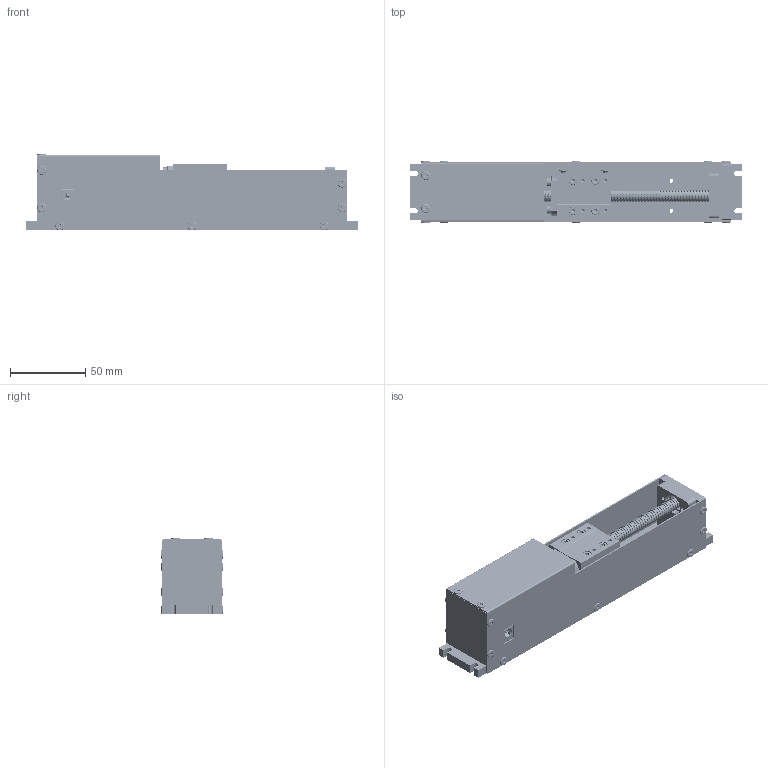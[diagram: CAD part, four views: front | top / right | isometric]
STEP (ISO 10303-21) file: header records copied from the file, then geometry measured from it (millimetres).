
FILE_DESCRIPTION (( 'STEP AP203' ), '1' );
FILE_NAME ('60 mm linear stage.STEP', '2025-09-11T20:34:11', ( 'cad' ), ( '' ), 'SwSTEP 2.0', 'SolidWorks 2017', '' );
FILE_SCHEMA (( 'CONFIG_CONTROL_DESIGN' ));
Length unit declared in the file: millimetre
Products named in the file (34): 蚾饜极23^SWHL60G02-28GC5-10  (A1-24.4.30); ﾊｮﾗﾖｲﾛﾐ｡ﾅﾌﾍｷﾂﾝｶ､-GBT823_M2.5X25; 錨璃33^60 mm linear stage; 6941xx301002_PinBis.step; SWHL60G02-28GC5-10  (A1-24.4.30); 28HS3406-123G0802D5-320-C5; 1002542_side plate rear; 694106301002.step; 10103594 v2.step; 内六角圆柱头螺钉-GBT70.1_M3X10^装配体23_SWHL60G02-28GC5-10  (A1-24.4.30); 錨璃63^60 mm linear stage; Packages.step; 10103594.step; 滚珠丝杆电机配套螺母(8X2)^装配体23_SWHL60G02-28GC5-10  (A1-24.4.30); 錨璃64^60 mm linear stage; MSSD Ver 2.0 v5_1; 6941xx301002.step; 内六角圆柱头螺钉-GBT70.1_M3X8^装配体23_SWHL60G02-28GC5-10  (A1-24.4.30); 1002541_top cover; 1002366_bottom cover; 694106301002_PinContact.step; 蟀諉輸ㄗ28ㄘ12.5; 30綴蟀諉啣H; 60 mm linear stage; 1002543_side plate front; 6941xx301002_Back.step; 内六角圆柱头螺钉-GBT70.1_M3X18; 30ヶ蟀諉啣H; M3X6; 6941xx301002_PinContact2.step; BRH12 賑輸^蚾饜极23_SWHL60G02-28GC5-10  (A1-24.4.30); M3X10_PAN; 6941xx301002_PinLame.step
Assembly tree (64 placements, depth 5):
  錨璃63^60 mm linear stage
  錨璃64^60 mm linear stage
  60 mm linear stage
    SWHL60G02-28GC5-10  (A1-24.4.30)
      30綴蟀諉啣H
      30ヶ蟀諉啣H
      28HS3406-123G0802D5-320-C5
        28HS3406-123G0802D5-320-C5
        ﾊｮﾗﾖｲﾛﾐ｡ﾅﾌﾍｷﾂﾝｶ､-GBT823_M2.5X25  x4
      蚾饜极23^SWHL60G02-28GC5-10  (A1-24.4.30)
        内六角圆柱头螺钉-GBT70.1_M3X10^装配体23_SWHL60G02-28GC5-10  (A1-24.4.30)  x2
        滚珠丝杆电机配套螺母(8X2)^装配体23_SWHL60G02-28GC5-10  (A1-24.4.30)
        内六角圆柱头螺钉-GBT70.1_M3X8^装配体23_SWHL60G02-28GC5-10  (A1-24.4.30)  x4
        蟀諉輸ㄗ28ㄘ12.5
        内六角圆柱头螺钉-GBT70.1_M3X18  x4
        BRH12 賑輸^蚾饜极23_SWHL60G02-28GC5-10  (A1-24.4.30)
    MSSD Ver 2.0 v5_1
      Packages.step
        10103594.step
          10103594 v2.step
        694106301002.step
          6941xx301002.step
          694106301002_PinContact.step
          6941xx301002_Back.step
          6941xx301002_PinContact2.step
          6941xx301002_PinLame.step
          6941xx301002_PinBis.step
    1002366_bottom cover
    1002543_side plate front
    M3X6  x18
    M3X10_PAN  x4
    錨璃33^60 mm linear stage  x4
    1002542_side plate rear
    1002541_top cover
Bounding box: 221 x 41.3 x 51.15 mm (x, y, z)
Volume: 149163.6 mm3; surface area: 115023.6 mm2
Topology: 56 solids, 96 shells, 3043 faces, 7874 edges, 5152 vertices
Faces by surface type: plane 1814, cylinder 728, cone 344, bspline 124, torus 33
Full cylindrical faces by diameter (mm): 1.2 x4, 1.5 x6, 1.6 x1, 1.8 x1, 2 x5, 2.05 x4, 2.3 x2, 2.5 x20, 2.55 x29, 2.8 x4, 2.9 x4, 3 x158, 3.1 x4, 3.2 x2, 3.4 x12, 3.5 x24, 4.5 x4, 5 x5, 5.5 x10, 6 x34, 6.2 x4, 6.4 x5, 7 x1, 9 x1, 10 x1, 12 x1, 13.8 x1, 14 x2, 14.2 x1, 15 x1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
Entity records: 84991 total; most frequent: CARTESIAN_POINT 27603, ORIENTED_EDGE 10956, DIRECTION 10363, EDGE_CURVE 5526, LINE 3979, VECTOR 3979, VERTEX_POINT 3844, AXIS2_PLACEMENT_3D 3192
